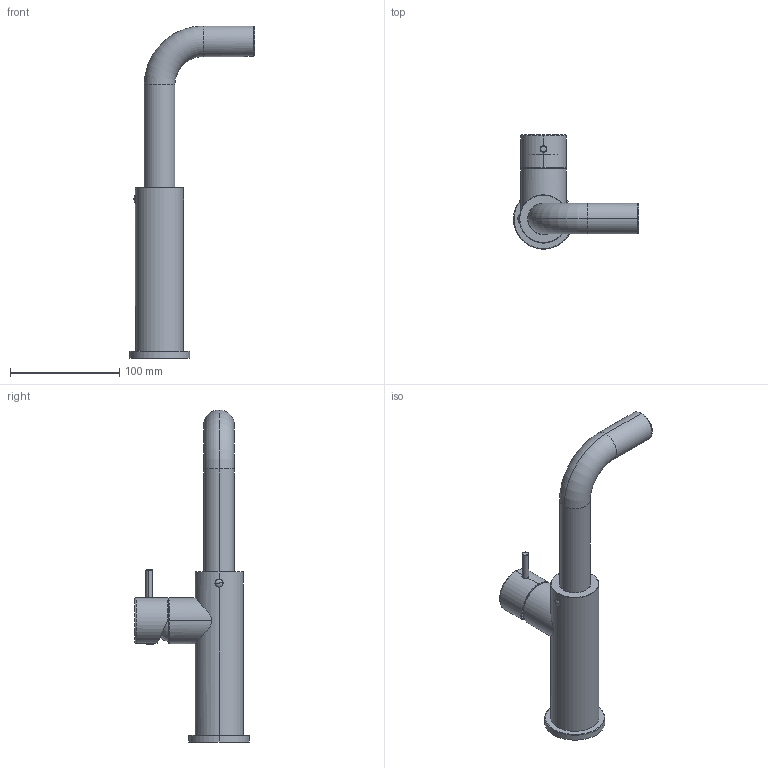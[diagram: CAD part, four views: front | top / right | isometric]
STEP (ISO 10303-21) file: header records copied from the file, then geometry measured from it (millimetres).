
FILE_DESCRIPTION (( 'STEP AP203' ), '1' );
FILE_NAME ('KT20E.STEP', '2025-02-07T13:51:26', ( '' ), ( '' ), 'SwSTEP 2.0', 'SolidWorks 2024', '' );
FILE_SCHEMA (( 'CONFIG_CONTROL_DESIGN' ));
Length unit declared in the file: millimetre
Products named in the file (20): C47.00.0088.01; C24.0120.00.1; C11.10.0002; C24.1078.00.0; KT20E; 77MUM_CANOTTO; C10.00.0020; C24.0929.00.0; AS307_00; C47.00.0023.01; C21.0273.00.1; C24.0923.00.2; C24.0022.00.0; C24.0927.00.1; C24.0699.00.0; C31.00.0006.01; C21.0274.00.0; C24.1079.00.1; C11.10.0009; C11.14.0009
Assembly tree (22 placements, depth 3):
  KT20E
    AS307_00
      C24.1079.00.1
      C24.1078.00.0
      C11.10.0009  x2
    C24.0120.00.1
    C10.00.0020
    C24.0022.00.0
    C24.0927.00.1
    C24.0923.00.2
    C24.0699.00.0
    C11.14.0009
    C11.10.0002
    C21.0273.00.1
    C47.00.0088.01
    C24.0929.00.0
    77MUM_CANOTTO
    C31.00.0006.01
    C21.0274.00.0  x3
    C47.00.0023.01
Bounding box: 114.5 x 104.5 x 304.01 mm (x, y, z)
Volume: 198685.3 mm3; surface area: 124767.1 mm2
Topology: 22 solids, 22 shells, 632 faces, 1490 edges, 927 vertices
Faces by surface type: cylinder 260, plane 207, cone 124, torus 28, bspline 11, sphere 2
Entity records: 21198 total; most frequent: CARTESIAN_POINT 5159, DIRECTION 3083, ORIENTED_EDGE 2748, EDGE_CURVE 1374, AXIS2_PLACEMENT_3D 1241, VERTEX_POINT 869, EDGE_LOOP 677, CIRCLE 634
